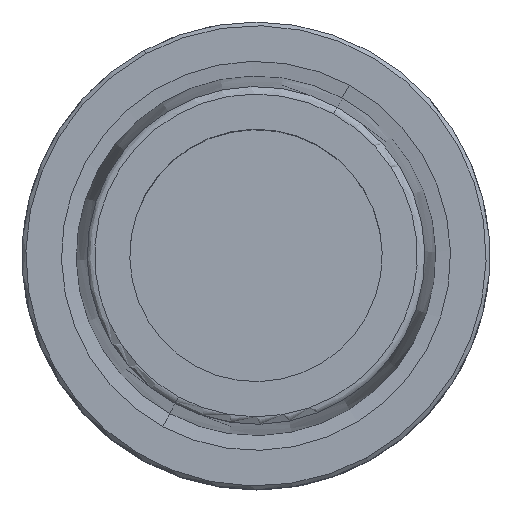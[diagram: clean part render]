
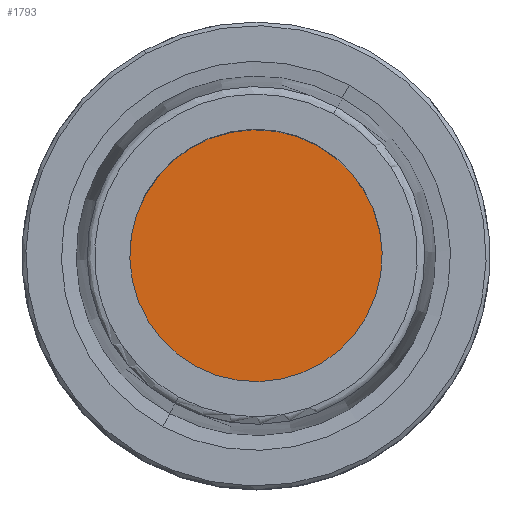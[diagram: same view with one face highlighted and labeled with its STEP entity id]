
A CAD part, top view. The second image highlights one B-rep face of the part: STEP entity #1793.
In plain terms, the highlighted planar face has unit normal (0, 0, 1).
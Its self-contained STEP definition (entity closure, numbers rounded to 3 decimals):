
#1773=AXIS2_PLACEMENT_3D('Plane Axis2P3D',#1770,#1771,#1772) ;
#1777=AXIS2_PLACEMENT_3D('Circle Axis2P3D',#1775,#1776,$) ;
#1786=AXIS2_PLACEMENT_3D('Circle Axis2P3D',#1784,#1785,$) ;
#1770=CARTESIAN_POINT('Axis2P3D Location',(0.,0.,-10.)) ;
#1775=CARTESIAN_POINT('Axis2P3D Location',(0.,0.,-10.)) ;
#1779=CARTESIAN_POINT('Vertex',(8.15,14.919,-10.)) ;
#1781=CARTESIAN_POINT('Vertex',(-8.15,-14.919,-10.)) ;
#1784=CARTESIAN_POINT('Axis2P3D Location',(0.,0.,-10.)) ;
#1771=DIRECTION('Axis2P3D Direction',(0.,0.,1.)) ;
#1772=DIRECTION('Axis2P3D XDirection',(1.,0.,0.)) ;
#1776=DIRECTION('Axis2P3D Direction',(0.,0.,1.)) ;
#1785=DIRECTION('Axis2P3D Direction',(0.,0.,1.)) ;
#1790=ORIENTED_EDGE('',*,*,#1783,.T.) ;
#1791=ORIENTED_EDGE('',*,*,#1788,.T.) ;
#1793=ADVANCED_FACE('NOCUT',(#1792),#1774,.T.) ;
#1778=CIRCLE('generated circle',#1777,17.) ;
#1787=CIRCLE('generated circle',#1786,17.) ;
#1783=EDGE_CURVE('',#1780,#1782,#1778,.T.) ;
#1788=EDGE_CURVE('',#1782,#1780,#1787,.T.) ;
#1789=EDGE_LOOP('',(#1790,#1791)) ;
#1792=FACE_OUTER_BOUND('',#1789,.T.) ;
#1774=PLANE('',#1773) ;
#1780=VERTEX_POINT('',#1779) ;
#1782=VERTEX_POINT('',#1781) ;
